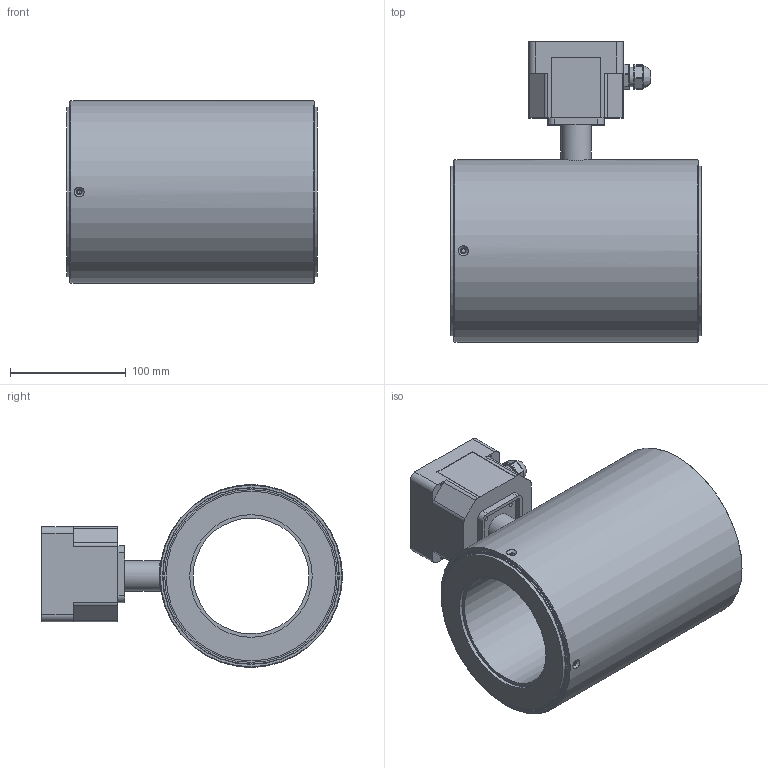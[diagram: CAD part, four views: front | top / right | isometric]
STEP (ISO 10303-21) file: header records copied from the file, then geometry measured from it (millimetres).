
FILE_DESCRIPTION(/* description */ (''),/* implementation_level */ '2;1');
FILE_NAME(/* name */ 'C:\ТЭК\Реклама\ПРЭМ-100S\ПРЭМ-100S.stp',/* time_stamp */ '2020-01-31T11:02:18+03:00',/* author */ ('Kishalov.m'),/* organization */ (''),/* preprocessor_version */ 'ST-DEVELOPER v18',/* originating_system */ 'Autodesk Inventor 2020',/* authorisation */ '');
FILE_SCHEMA (('AUTOMOTIVE_DESIGN { 1 0 10303 214 3 1 1 }'));
Products named in the file (1): ПРЭМ-100S
Bounding box: 217 x 260 x 158 mm (x, y, z)
Volume: 1160854.3 mm3; surface area: 500323.4 mm2
Topology: 6 solids, 6 shells, 2042 faces, 5339 edges, 3398 vertices
Faces by surface type: plane 1206, bspline 453, cylinder 281, sphere 60, cone 40, torus 2
Full cylindrical faces by diameter (mm): 0.431 x1, 0.546 x1, 1.159 x2, 1.5 x2, 1.7 x4, 1.8 x8, 2.5 x4, 3.242 x8, 3.65 x4, 4.2 x1, 4.5 x8, 4.7 x4, 5.472 x1, 5.5 x3, 7.5 x4, 8.5 x4, 11 x8, 12 x2, 13 x2, 17 x6, 18 x1, 19.094 x2, 20.5 x1, 21.2 x1, 26 x1, 100 x1, 106 x4, 113 x2, 113.1 x2, 114 x1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
Entity records: 71294 total; most frequent: CARTESIAN_POINT 21957, ORIENTED_EDGE 10500, DIRECTION 8227, EDGE_CURVE 5250, LINE 3631, VECTOR 3631, VERTEX_POINT 3399, AXIS2_PLACEMENT_3D 2298
